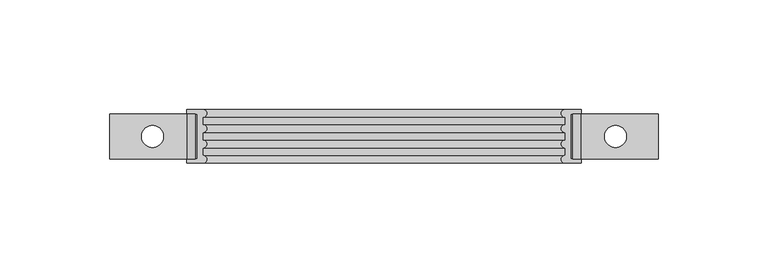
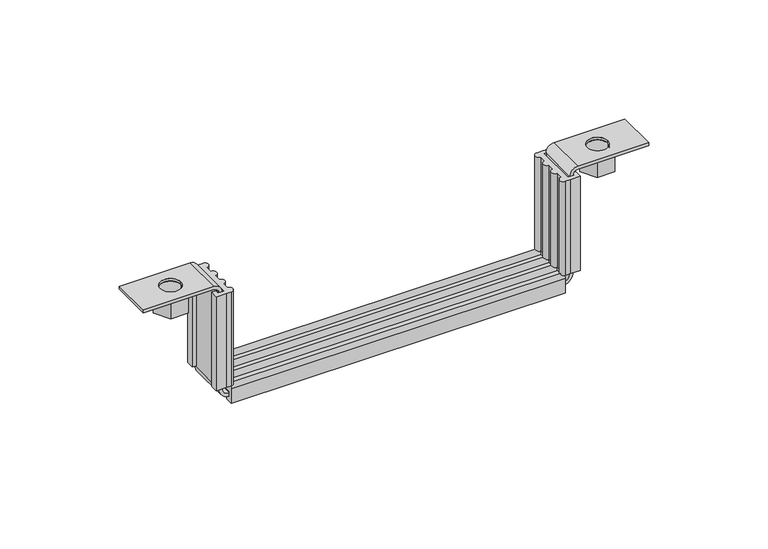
"""IFC4 building model written with IfcOpenShell, lengths in millimetres: pipe fitting geometry, AmancoWavin_ConexõesdeTubos_EsgotoSilentiumNãoUsarSuporteCaixa : Ecoat."""

from ifc_helpers import new_model, si_unit, point, frame, frame_2d, origin, place, context, project, spatial, polyline, circle_curve, trimmed, segment, composite_curve, outline, extrude, source, transform, mapped, element, save
from ifc_brep_helpers import plane_surface, cylinder_surface, revolved_surface, advanced_brep


def pipe_fitting_faaf0da3(model_context):
    return source(origin(), model_context, "Body", "SolidModel", [
        extrude(outline(polyline([(109.825, 7.5), (114.155127, 0.0), (109.825, -7.5), (101.164746, -7.5), (96.8346189, 0.0), (101.164746, 7.5), (109.825, 7.5)]), holes=[composite_curve([segment(trimmed(circle_curve(frame_2d((105.5, 0.0)), 5.0), [point((100.5, 0.0))], [point((110.5, 0.0))], True, "CARTESIAN"), True, "CONTINUOUS"), segment(trimmed(circle_curve(frame_2d((105.5, 0.0)), 5.0), [point((110.5, 0.0))], [point((100.5, 0.0))], True, "CARTESIAN"), True, "CONTINUOUS")], self_intersect=False)]), frame((0.0, 0.0, 47.75), z_axis=(0.0, 0.0, 1.0), x_axis=(1.0, 0.0, 0.0)), (0.0, 0.0, 1.0), 10.0),
        extrude(outline(polyline([(-101.175, 7.5), (-96.844873, 0.0), (-101.175, -7.5), (-109.835254, -7.5), (-114.1653811, 0.0), (-109.835254, 7.5), (-101.175, 7.5)]), holes=[composite_curve([segment(trimmed(circle_curve(frame_2d((-105.5, 0.0)), 5.0), [point((-110.5, 0.0))], [point((-100.5, 0.0))], True, "CARTESIAN"), True, "CONTINUOUS"), segment(trimmed(circle_curve(frame_2d((-105.5, 0.0)), 5.0), [point((-100.5, 0.0))], [point((-110.5, 0.0))], True, "CARTESIAN"), True, "CONTINUOUS")], self_intersect=False)]), frame((0.0, 0.0, 47.75), z_axis=(0.0, 0.0, 1.0), x_axis=(1.0, 0.0, 0.0)), (0.0, 0.0, 1.0), 10.0),
        extrude(outline(composite_curve([segment(polyline([(12.25, -3.25), (8.25, -3.25), (8.25, -1.25), (10.25, -1.25), (10.25, 1.75), (-10.25, 1.75), (-10.25, -1.25), (-8.25, -1.25), (-8.25, -3.25), (-12.25, -3.25), (-12.25, 4.25)]), True, "CONTINUOUS"), segment(trimmed(circle_curve(frame_2d((-10.5, 4.25)), 1.75), [point((-12.25, 4.25))], [point((-8.75, 4.25))], False, "CARTESIAN"), True, "CONTINUOUS"), segment(polyline([(-8.75, 4.25), (-5.25, 4.25)]), True, "CONTINUOUS"), segment(trimmed(circle_curve(frame_2d((-3.5, 4.25)), 1.75), [point((-5.25, 4.25))], [point((-1.75, 4.25))], False, "CARTESIAN"), True, "CONTINUOUS"), segment(polyline([(-1.75, 4.25), (1.75, 4.25)]), True, "CONTINUOUS"), segment(trimmed(circle_curve(frame_2d((3.5, 4.25)), 1.75), [point((1.75, 4.25))], [point((5.25, 4.25))], False, "CARTESIAN"), True, "CONTINUOUS"), segment(polyline([(5.25, 4.25), (8.75, 4.25)]), True, "CONTINUOUS"), segment(trimmed(circle_curve(frame_2d((10.5, 4.25)), 1.75), [point((8.75, 4.25))], [point((12.25, 4.25))], False, "CARTESIAN"), True, "CONTINUOUS"), segment(polyline([(12.25, 4.25), (12.25, -3.25)]), True, "CONTINUOUS")], self_intersect=False)), frame((-82.5, 0.0, 0.0), z_axis=(1.0, 0.0, 0.0), x_axis=(0.0, 1.0, 0.0)), (0.0, 0.0, 1.0), 165.0),
        extrude(outline(composite_curve([segment(polyline([(-85.0, 10.25), (-88.0, 10.25), (-88.0, 8.25), (-90.0, 8.25), (-90.0, 12.25), (-85.0, 12.25), (-82.5, 12.25)]), True, "CONTINUOUS"), segment(trimmed(circle_curve(frame_2d((-82.5, 10.5)), 1.75), [point((-82.5, 12.25))], [point((-82.5, 8.75))], False, "CARTESIAN"), True, "CONTINUOUS"), segment(polyline([(-82.5, 8.75), (-82.5, 5.25)]), True, "CONTINUOUS"), segment(trimmed(circle_curve(frame_2d((-82.5, 3.5)), 1.75), [point((-82.5, 5.25))], [point((-82.5, 1.75))], False, "CARTESIAN"), True, "CONTINUOUS"), segment(polyline([(-82.5, 1.75), (-82.5, -1.75)]), True, "CONTINUOUS"), segment(trimmed(circle_curve(frame_2d((-82.5, -3.5)), 1.75), [point((-82.5, -1.75))], [point((-82.5, -5.25))], False, "CARTESIAN"), True, "CONTINUOUS"), segment(polyline([(-82.5, -5.25), (-82.5, -8.75)]), True, "CONTINUOUS"), segment(trimmed(circle_curve(frame_2d((-82.5, -10.5)), 1.75), [point((-82.5, -8.75))], [point((-82.5, -12.25))], False, "CARTESIAN"), True, "CONTINUOUS"), segment(polyline([(-82.5, -12.25), (-85.0, -12.25), (-90.0, -12.25), (-90.0, -8.25), (-88.0, -8.25), (-88.0, -10.25), (-85.0, -10.25), (-85.0, 10.25)]), True, "CONTINUOUS")], self_intersect=False)), frame((0.0, 0.0, 6.0), z_axis=(0.0, 0.0, 1.0), x_axis=(1.0, 0.0, 0.0)), (0.0, 0.0, 1.0), 49.2),
        extrude(outline(composite_curve([segment(polyline([(85.0, 10.25), (85.0, -10.25), (88.0, -10.25), (88.0, -8.25), (90.0, -8.25), (90.0, -12.25), (85.0, -12.25), (82.5, -12.25)]), True, "CONTINUOUS"), segment(trimmed(circle_curve(frame_2d((82.5, -10.5)), 1.75), [point((82.5, -12.25))], [point((82.5, -8.75))], False, "CARTESIAN"), True, "CONTINUOUS"), segment(polyline([(82.5, -8.75), (82.5, -5.25)]), True, "CONTINUOUS"), segment(trimmed(circle_curve(frame_2d((82.5, -3.5)), 1.75), [point((82.5, -5.25))], [point((82.5, -1.75))], False, "CARTESIAN"), True, "CONTINUOUS"), segment(polyline([(82.5, -1.75), (82.5, 1.75)]), True, "CONTINUOUS"), segment(trimmed(circle_curve(frame_2d((82.5, 3.5)), 1.75), [point((82.5, 1.75))], [point((82.5, 5.25))], False, "CARTESIAN"), True, "CONTINUOUS"), segment(polyline([(82.5, 5.25), (82.5, 8.75)]), True, "CONTINUOUS"), segment(trimmed(circle_curve(frame_2d((82.5, 10.5)), 1.75), [point((82.5, 8.75))], [point((82.5, 12.25))], False, "CARTESIAN"), True, "CONTINUOUS"), segment(polyline([(82.5, 12.25), (85.0, 12.25), (90.0, 12.25), (90.0, 8.25), (88.0, 8.25), (88.0, 10.25), (85.0, 10.25)]), True, "CONTINUOUS")], self_intersect=False)), frame((0.0, 0.0, 6.0), z_axis=(0.0, 0.0, 1.0), x_axis=(1.0, 0.0, 0.0)), (0.0, 0.0, 1.0), 49.2),
        advanced_brep(
        [(-90.0, 10.25, 59.25), (-86.0, 10.25, 55.25), (-86.0, 10.25, 4.75), (-82.0, 10.25, 0.75), (82.0, 10.25, 0.75), (86.0, 10.25, 4.75), (86.0, 10.25, 55.25), (90.0, 10.25, 59.25), (125.0, 10.25, 59.25), (125.0, 10.25, 57.75), (90.0, 10.25, 57.75), (87.5, 10.25, 55.25), (87.5, 10.25, 4.75), (82.0, 10.25, -0.75), (-82.0, 10.25, -0.75), (-87.5, 10.25, 4.75), (-87.5, 10.25, 55.25), (-90.0, 10.25, 57.75), (-125.0, 10.25, 57.75), (-125.0, 10.25, 59.25), (-90.0, -10.25, 59.25), (-125.0, -10.25, 59.25), (-125.0, -10.25, 57.75), (-90.0, -10.25, 57.75), (-87.5, -10.25, 55.25), (-87.5, -10.25, 4.75), (-82.0, -10.25, -0.75), (82.0, -10.25, -0.75), (87.5, -10.25, 4.75), (87.5, -10.25, 55.25), (90.0, -10.25, 57.75), (125.0, -10.25, 57.75), (125.0, -10.25, 59.25), (90.0, -10.25, 59.25), (86.0, -10.25, 55.25), (86.0, -10.25, 4.75), (82.0, -10.25, 0.75), (-82.0, -10.25, 0.75), (-86.0, -10.25, 4.75), (-86.0, -10.25, 55.25), (-100.5, 0.0, 59.25), (-110.5, 0.0, 59.25), (-110.5, 0.0, 57.75), (-100.5, 0.0, 57.75), (100.5, 0.0, 57.75), (110.5, 0.0, 57.75), (110.5, 0.0, 59.25), (100.5, 0.0, 59.25)],
        [
            (0, 1, circle_curve(frame((-90.0, 10.25, 55.25), z_axis=(0.0, 1.0, 0.0), x_axis=(1.0, 0.0, 0.0)), 4.0)),
            (1, 2),
            (2, 3, circle_curve(frame((-82.0, 10.25, 4.75), z_axis=(0.0, -1.0, 0.0), x_axis=(1.0, 0.0, 0.0)), 4.0)),
            (3, 4),
            (4, 5, circle_curve(frame((82.0, 10.25, 4.75), z_axis=(0.0, -1.0, 0.0), x_axis=(1.0, 0.0, 0.0)), 4.0)),
            (5, 6),
            (6, 7, circle_curve(frame((90.0, 10.25, 55.25), z_axis=(0.0, 1.0, 0.0), x_axis=(1.0, 0.0, 0.0)), 4.0)),
            (7, 8),
            (8, 9),
            (9, 10),
            (10, 11, circle_curve(frame((90.0, 10.25, 55.25), z_axis=(0.0, -1.0, 0.0), x_axis=(1.0, 0.0, 0.0)), 2.5)),
            (11, 12),
            (12, 13, circle_curve(frame((82.0, 10.25, 4.75), z_axis=(0.0, 1.0, 0.0), x_axis=(1.0, 0.0, 0.0)), 5.5)),
            (13, 14),
            (14, 15, circle_curve(frame((-82.0, 10.25, 4.75), z_axis=(0.0, 1.0, 0.0), x_axis=(1.0, 0.0, 0.0)), 5.5)),
            (15, 16),
            (16, 17, circle_curve(frame((-90.0, 10.25, 55.25), z_axis=(0.0, -1.0, 0.0), x_axis=(1.0, 0.0, 0.0)), 2.5)),
            (17, 18),
            (18, 19),
            (19, 0),
            (20, 21),
            (21, 22),
            (22, 23),
            (23, 24, circle_curve(frame((-90.0, -10.25, 55.25), z_axis=(0.0, 1.0, 0.0), x_axis=(1.0, 0.0, 0.0)), 2.5)),
            (24, 25),
            (25, 26, circle_curve(frame((-82.0, -10.25, 4.75), z_axis=(0.0, -1.0, 0.0), x_axis=(1.0, 0.0, 0.0)), 5.5)),
            (26, 27),
            (27, 28, circle_curve(frame((82.0, -10.25, 4.75), z_axis=(0.0, -1.0, 0.0), x_axis=(1.0, 0.0, 0.0)), 5.5)),
            (28, 29),
            (29, 30, circle_curve(frame((90.0, -10.25, 55.25), z_axis=(0.0, 1.0, 0.0), x_axis=(1.0, 0.0, 0.0)), 2.5)),
            (30, 31),
            (31, 32),
            (32, 33),
            (33, 34, circle_curve(frame((90.0, -10.25, 55.25), z_axis=(0.0, -1.0, 0.0), x_axis=(1.0, 0.0, 0.0)), 4.0)),
            (34, 35),
            (35, 36, circle_curve(frame((82.0, -10.25, 4.75), z_axis=(0.0, 1.0, 0.0), x_axis=(1.0, 0.0, 0.0)), 4.0)),
            (36, 37),
            (37, 38, circle_curve(frame((-82.0, -10.25, 4.75), z_axis=(0.0, 1.0, 0.0), x_axis=(1.0, 0.0, 0.0)), 4.0)),
            (38, 39),
            (39, 20, circle_curve(frame((-90.0, -10.25, 55.25), z_axis=(0.0, -1.0, 0.0), x_axis=(1.0, 0.0, 0.0)), 4.0)),
            (19, 21),
            (20, 0),
            (40, 41, circle_curve(frame((-105.5, 0.0, 59.25), z_axis=(0.0, 0.0, -1.0), x_axis=(1.0, 0.0, 0.0)), 5.0)),
            (41, 40, circle_curve(frame((-105.5, 0.0, 59.25), z_axis=(0.0, 0.0, -1.0), x_axis=(1.0, 0.0, 0.0)), 5.0)),
            (18, 22),
            (17, 23),
            (42, 43, circle_curve(frame((-105.5, 0.0, 57.75), z_axis=(0.0, 0.0, 1.0), x_axis=(1.0, 0.0, 0.0)), 5.0)),
            (43, 42, circle_curve(frame((-105.5, 0.0, 57.75), z_axis=(0.0, 0.0, 1.0), x_axis=(1.0, 0.0, 0.0)), 5.0)),
            (16, 24),
            (15, 25),
            (14, 26),
            (13, 27),
            (12, 28),
            (11, 29),
            (10, 30),
            (9, 31),
            (44, 45, circle_curve(frame((105.5, 0.0, 57.75), z_axis=(0.0, 0.0, 1.0), x_axis=(1.0, 0.0, 0.0)), 5.0)),
            (45, 44, circle_curve(frame((105.5, 0.0, 57.75), z_axis=(0.0, 0.0, 1.0), x_axis=(1.0, 0.0, 0.0)), 5.0)),
            (8, 32),
            (7, 33),
            (46, 47, circle_curve(frame((105.5, 0.0, 59.25), z_axis=(0.0, 0.0, -1.0), x_axis=(1.0, 0.0, 0.0)), 5.0)),
            (47, 46, circle_curve(frame((105.5, 0.0, 59.25), z_axis=(0.0, 0.0, -1.0), x_axis=(1.0, 0.0, 0.0)), 5.0)),
            (6, 34),
            (5, 35),
            (4, 36),
            (3, 37),
            (2, 38),
            (1, 39),
            (42, 41),
            (40, 43),
            (44, 47),
            (46, 45),
        ],
        [
            plane_surface(frame((-125.0, 10.25, 59.25), z_axis=(0.0, 1.0, 0.0), x_axis=(1.0, 0.0, 0.0))),
            plane_surface(frame((-125.0, -10.25, 59.25), z_axis=(0.0, -1.0, 0.0), x_axis=(-1.0, 0.0, 0.0))),
            plane_surface(frame((-90.0, -10.25, 59.25), z_axis=(0.0, 0.0, 1.0), x_axis=(0.0, 1.0, 0.0))),
            plane_surface(frame((-125.0, -10.25, 59.25), z_axis=(-1.0, 0.0, 0.0), x_axis=(0.0, 1.0, 0.0))),
            plane_surface(frame((-125.0, -10.25, 57.75), z_axis=(0.0, 0.0, -1.0), x_axis=(0.0, 1.0, 0.0))),
            revolved_surface(polyline([(-87.5, 10.25, 55.25), (-87.5, -10.25, 55.25)]), (-90.0, 10.25, 55.25), (0.0, 1.0, 0.0)),
            plane_surface(frame((-87.5, -10.25, 55.25), z_axis=(-1.0, 0.0, 0.0), x_axis=(0.0, 1.0, 0.0))),
            cylinder_surface(frame((-82.0, 10.25, 4.75), z_axis=(0.0, -1.0, 0.0), x_axis=(1.0, 0.0, 0.0)), 5.5),
            plane_surface(frame((-82.0, -10.25, -0.75), z_axis=(0.0, 0.0, -1.0), x_axis=(0.0, 1.0, 0.0))),
            cylinder_surface(frame((82.0, 10.25, 4.75), z_axis=(0.0, -1.0, 0.0), x_axis=(1.0, 0.0, 0.0)), 5.5),
            plane_surface(frame((87.5, -10.25, 4.75), z_axis=(1.0, 0.0, 0.0), x_axis=(0.0, 1.0, 0.0))),
            revolved_surface(polyline([(92.5, 10.25, 55.25), (92.5, -10.25, 55.25)]), (90.0, 10.25, 55.25), (0.0, 1.0, 0.0)),
            plane_surface(frame((90.0, -10.25, 57.75), z_axis=(0.0, 0.0, -1.0), x_axis=(0.0, 1.0, 0.0))),
            plane_surface(frame((125.0, -10.25, 57.75), z_axis=(1.0, 0.0, 0.0), x_axis=(0.0, 1.0, 0.0))),
            plane_surface(frame((125.0, -10.25, 59.25), z_axis=(0.0, 0.0, 1.0), x_axis=(0.0, 1.0, 0.0))),
            cylinder_surface(frame((90.0, 10.25, 55.25), z_axis=(0.0, -1.0, 0.0), x_axis=(1.0, 0.0, 0.0)), 4.0),
            plane_surface(frame((86.0, -10.25, 55.25), z_axis=(-1.0, 0.0, 0.0), x_axis=(0.0, 1.0, 0.0))),
            revolved_surface(polyline([(86.0, 10.25, 4.75), (86.0, -10.25, 4.75)]), (82.0, 10.25, 4.75), (0.0, 1.0, 0.0)),
            plane_surface(frame((82.0, -10.25, 0.75), z_axis=(0.0, 0.0, 1.0), x_axis=(0.0, 1.0, 0.0))),
            revolved_surface(polyline([(-78.0, 10.25, 4.75), (-78.0, -10.25, 4.75)]), (-82.0, 10.25, 4.75), (0.0, 1.0, 0.0)),
            plane_surface(frame((-86.0, -10.25, 4.75), z_axis=(1.0, 0.0, 0.0), x_axis=(0.0, 1.0, 0.0))),
            cylinder_surface(frame((-90.0, 10.25, 55.25), z_axis=(0.0, -1.0, 0.0), x_axis=(1.0, 0.0, 0.0)), 4.0),
            revolved_surface(polyline([(-100.5, 0.0, 59.25), (-100.5, 0.0, 57.75)]), (-105.5, 0.0, 57.0), (0.0, 0.0, 1.0)),
            revolved_surface(polyline([(110.5, 0.0, 59.25), (110.5, 0.0, 57.75)]), (105.5, 0.0, 0.0), (0.0, 0.0, 1.0)),
        ],
        [
            (0, [[1, 2, 3, 4, 5, 6, 7, 8, 9, 10, 11, 12, 13, 14, 15, 16, 17, 18, 19, 20]]),
            (1, [[21, 22, 23, 24, 25, 26, 27, 28, 29, 30, 31, 32, 33, 34, 35, 36, 37, 38, 39, 40]]),
            (2, [[-20, 41, -21, 42], [43, 44]]),
            (3, [[-19, 45, -22, -41]]),
            (4, [[-18, 46, -23, -45], [47, 48]]),
            (5, [[-17, 49, -24, -46]]),
            (6, [[-16, 50, -25, -49]]),
            (7, [[-15, 51, -26, -50]]),
            (8, [[-14, 52, -27, -51]]),
            (9, [[-13, 53, -28, -52]]),
            (10, [[-12, 54, -29, -53]]),
            (11, [[-11, 55, -30, -54]]),
            (12, [[-10, 56, -31, -55], [57, 58]]),
            (13, [[-9, 59, -32, -56]]),
            (14, [[-8, 60, -33, -59], [61, 62]]),
            (15, [[-7, 63, -34, -60]]),
            (16, [[-6, 64, -35, -63]]),
            (17, [[-5, 65, -36, -64]]),
            (18, [[-4, 66, -37, -65]]),
            (19, [[-3, 67, -38, -66]]),
            (20, [[-2, 68, -39, -67]]),
            (21, [[-1, -42, -40, -68]]),
            (22, [[69, -43, 70, -47]]),
            (22, [[-69, -48, -70, -44]]),
            (23, [[71, -61, 72, -57]]),
            (23, [[-71, -58, -72, -62]]),
        ],
    ),
    ])


if __name__ == "__main__":
    model = new_model("IFC4")
    model_context = context("Model", 3, world=origin())
    ifc_project = project(units=[si_unit("LENGTHUNIT", "METRE", prefix="MILLI")], contexts=[model_context])
    site = spatial("IfcSite", under=ifc_project)
    building = spatial("IfcBuilding", under=site)
    placement = place(None, origin())
    pipe_fitting_shape = pipe_fitting_faaf0da3(model_context)
    element("IfcPipeFitting", 1, ObjectType="AmancoWavin_ConexõesdeTubos_EsgotoSilentiumNãoUsarSuporteCaixa : Ecoat", at=placement, inside=building, context=model_context, shape_type="MappedRepresentation", body=[
        mapped(pipe_fitting_shape, transform((0.0, 0.0, 0.0), x_axis=(1.0, 0.0, 0.0), y_axis=(0.0, 1.0, 0.0), z_axis=(0.0, 0.0, 1.0))),
    ])
    save(model, "model.ifc")
